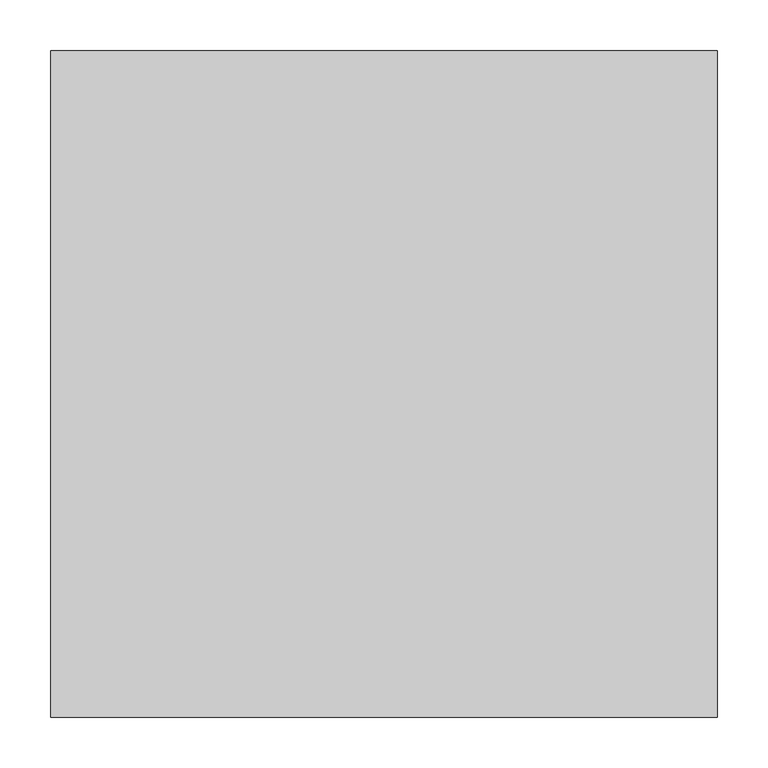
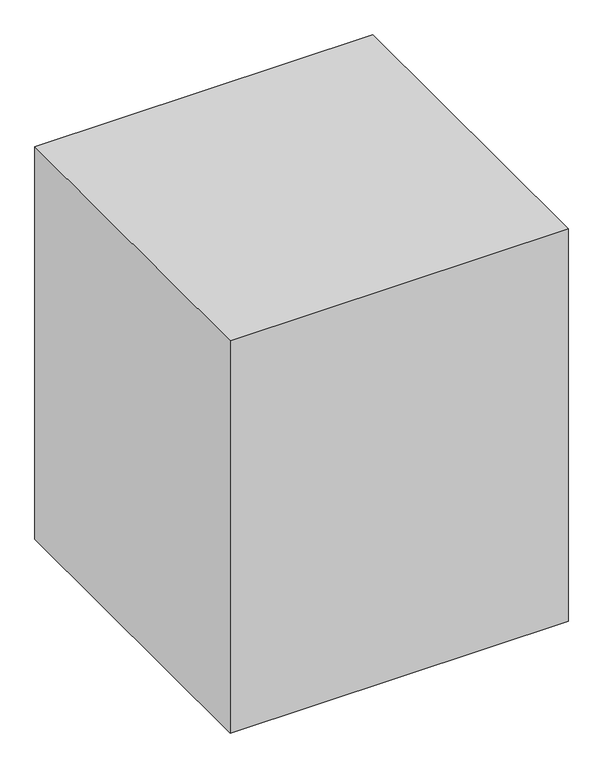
"""IFC4 building model written with IfcOpenShell, lengths in millimetres: proxy geometry, ▲GM_Зона обслуживания : Тип."""

from ifc_helpers import new_model, si_unit, origin, origin_with_axes, place, context, project, spatial, polyline, outline, extrude, source, transform, mapped, element, save


def generic_models_fe0a7764(model_context):
    return source(origin(), model_context, "Body", "SweptSolid", [
        extrude(outline(polyline([(660.0, -660.0), (0.0, -660.0), (0.0, 0.0), (660.0, 0.0), (660.0, -660.0)])), origin_with_axes(), (0.0, 0.0, 1.0), 810.0),
    ])


if __name__ == "__main__":
    model = new_model("IFC4")
    model_context = context("Model", 3, world=origin())
    ifc_project = project(units=[si_unit("LENGTHUNIT", "METRE", prefix="MILLI")], contexts=[model_context])
    site = spatial("IfcSite", under=ifc_project)
    building = spatial("IfcBuilding", under=site)
    placement = place(None, origin())
    generic_models_shape = generic_models_fe0a7764(model_context)
    element("IfcBuildingElementProxy", 1, Name="▲GM_Зона обслуживания : Тип", ObjectType="▲GM_Зона обслуживания : Тип", at=placement, inside=building, context=model_context, shape_type="MappedRepresentation", body=[
        mapped(generic_models_shape, transform((0.0, 0.0, 0.0), x_axis=(1.0, 0.0, 0.0), y_axis=(0.0, 1.0, 0.0), z_axis=(0.0, 0.0, 1.0))),
    ])
    save(model, "model.ifc")
